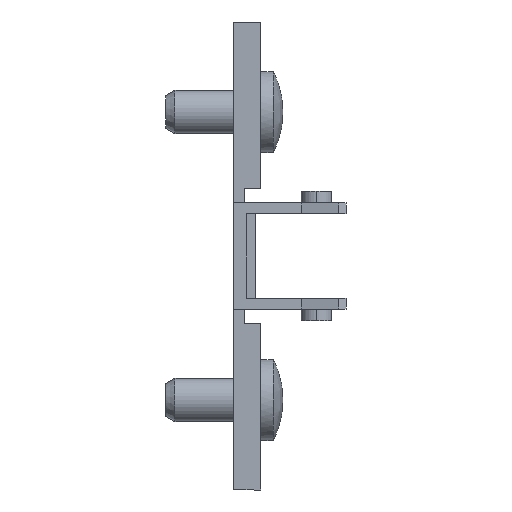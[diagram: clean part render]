
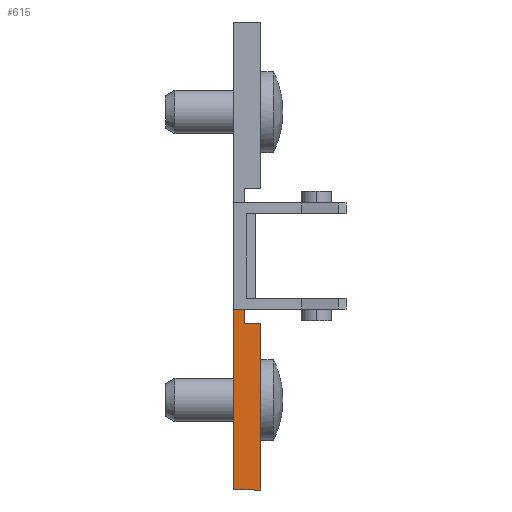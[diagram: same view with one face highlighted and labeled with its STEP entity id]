
A CAD part, front view. The second image highlights one B-rep face of the part: STEP entity #615.
In plain terms, the highlighted planar face has unit normal (0, -1, 0).
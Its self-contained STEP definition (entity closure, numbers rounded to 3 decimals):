
#82 = ORIENTED_EDGE ( 'NONE', *, *, #1313, .F. ) ;
#83 = ORIENTED_EDGE ( 'NONE', *, *, #1348, .T. ) ;
#84 = ORIENTED_EDGE ( 'NONE', *, *, #1536, .T. ) ;
#85 = ORIENTED_EDGE ( 'NONE', *, *, #1321, .T. ) ;
#86 = ORIENTED_EDGE ( 'NONE', *, *, #1650, .T. ) ;
#87 = ORIENTED_EDGE ( 'NONE', *, *, #1314, .T. ) ;
#614 = VECTOR ( 'NONE', #2227, 1000. ) ;
#615 = ADVANCED_FACE ( 'NONE', ( #1101 ), #1777, .F. ) ;
#617 = LINE ( 'NONE', #2228, #614 ) ;
#668 = LINE ( 'NONE', #2450, #694 ) ;
#694 = VECTOR ( 'NONE', #2451, 1000. ) ;
#934 = LINE ( 'NONE', #1934, #936 ) ;
#936 = VECTOR ( 'NONE', #2018, 1000. ) ;
#981 = VECTOR ( 'NONE', #1974, 1000. ) ;
#987 = LINE ( 'NONE', #1984, #981 ) ;
#1014 = VECTOR ( 'NONE', #1963, 1000. ) ;
#1057 = LINE ( 'NONE', #1965, #1014 ) ;
#1086 = LINE ( 'NONE', #1978, #1111 ) ;
#1101 = FACE_OUTER_BOUND ( 'NONE', #3164, .T. ) ;
#1111 = VECTOR ( 'NONE', #1972, 1000. ) ;
#1268 = AXIS2_PLACEMENT_3D ( 'NONE', #1774, #1762, #1761 ) ;
#1313 = EDGE_CURVE ( 'NONE', #2923, #2924, #987, .T. ) ;
#1314 = EDGE_CURVE ( 'NONE', #2937, #2924, #1086, .T. ) ;
#1321 = EDGE_CURVE ( 'NONE', #2869, #2870, #1057, .T. ) ;
#1348 = EDGE_CURVE ( 'NONE', #2923, #2922, #934, .T. ) ;
#1536 = EDGE_CURVE ( 'NONE', #2922, #2869, #617, .T. ) ;
#1650 = EDGE_CURVE ( 'NONE', #2870, #2937, #668, .T. ) ;
#1761 = DIRECTION ( 'NONE',  ( 0., 0., 1. ) ) ;
#1762 = DIRECTION ( 'NONE',  ( 0., 1., 0. ) ) ;
#1774 = CARTESIAN_POINT ( 'NONE',  ( 1.2, -9., -5. ) ) ;
#1777 = PLANE ( 'NONE',  #1268 ) ;
#1934 = CARTESIAN_POINT ( 'NONE',  ( 0., -9., -26. ) ) ;
#1963 = DIRECTION ( 'NONE',  ( 0., 0., 1. ) ) ;
#1965 = CARTESIAN_POINT ( 'NONE',  ( 3., -9., -7.5 ) ) ;
#1972 = DIRECTION ( 'NONE',  ( 0., 0., 1. ) ) ;
#1974 = DIRECTION ( 'NONE',  ( 1., 0., 0. ) ) ;
#1978 = CARTESIAN_POINT ( 'NONE',  ( 1.2, -9., -5. ) ) ;
#1984 = CARTESIAN_POINT ( 'NONE',  ( 1.2, -9., -5.9 ) ) ;
#2018 = DIRECTION ( 'NONE',  ( 0., 0., -1. ) ) ;
#2227 = DIRECTION ( 'NONE',  ( 1., 0., 0. ) ) ;
#2228 = CARTESIAN_POINT ( 'NONE',  ( 3., -9., -26. ) ) ;
#2450 = CARTESIAN_POINT ( 'NONE',  ( 1.2, -9., -7.5 ) ) ;
#2451 = DIRECTION ( 'NONE',  ( -1., 0., 0. ) ) ;
#2653 = CARTESIAN_POINT ( 'NONE',  ( 3., -9., -26. ) ) ;
#2654 = CARTESIAN_POINT ( 'NONE',  ( 3., -9., -7.5 ) ) ;
#2714 = CARTESIAN_POINT ( 'NONE',  ( 1.2, -9., -7.5 ) ) ;
#2728 = CARTESIAN_POINT ( 'NONE',  ( 0., -9., -26. ) ) ;
#2729 = CARTESIAN_POINT ( 'NONE',  ( 0., -9., -5.9 ) ) ;
#2730 = CARTESIAN_POINT ( 'NONE',  ( 1.2, -9., -5.9 ) ) ;
#2869 = VERTEX_POINT ( 'NONE', #2653 ) ;
#2870 = VERTEX_POINT ( 'NONE', #2654 ) ;
#2922 = VERTEX_POINT ( 'NONE', #2728 ) ;
#2923 = VERTEX_POINT ( 'NONE', #2729 ) ;
#2924 = VERTEX_POINT ( 'NONE', #2730 ) ;
#2937 = VERTEX_POINT ( 'NONE', #2714 ) ;
#3164 = EDGE_LOOP ( 'NONE', ( #82, #83, #84, #85, #86, #87 ) ) ;
